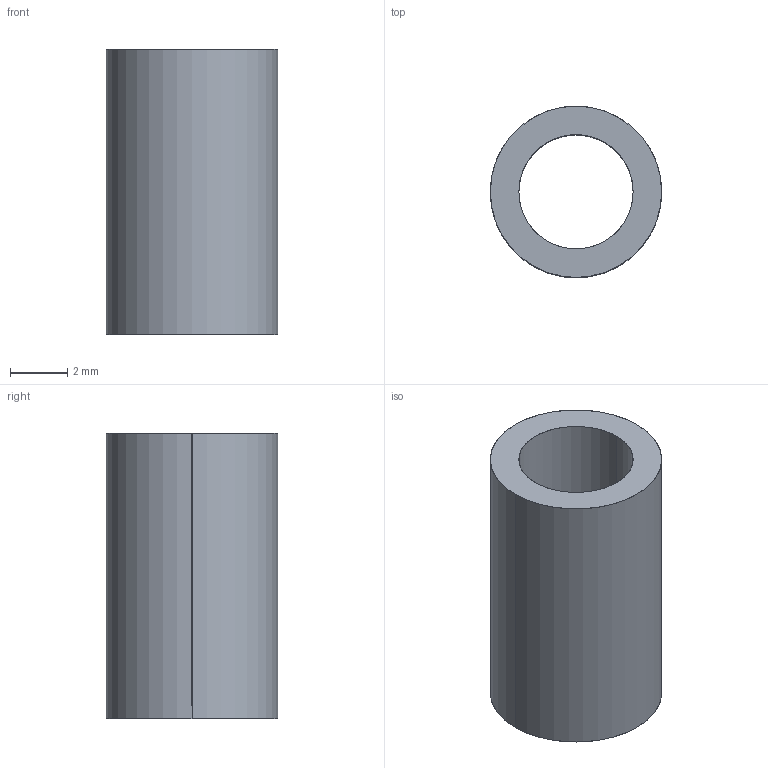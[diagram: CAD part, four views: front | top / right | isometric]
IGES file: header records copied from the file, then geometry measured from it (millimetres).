
Start section: SolidWorks IGES file using analytic representation for surfaces
Global section: file name: C:\Users\AndreBernot\Downloads\K-RACER-L_3D_SW\K-RACER-L_3D_SW\Entretoise D6 x 10.IGS; native system: SolidWorks 2015; preprocessor: SolidWorks 2015; author: AndreBernot; date: 170922.151245; units: millimetre
Bounding box: 6 x 6 x 10 mm (x, y, z)
Surface area: 345.6 mm2 (no closed solid volume)
Topology: 0 solids, 0 shells, 6 faces, 144 edges, 144 vertices
Faces by surface type: revolution 4, bspline 2
